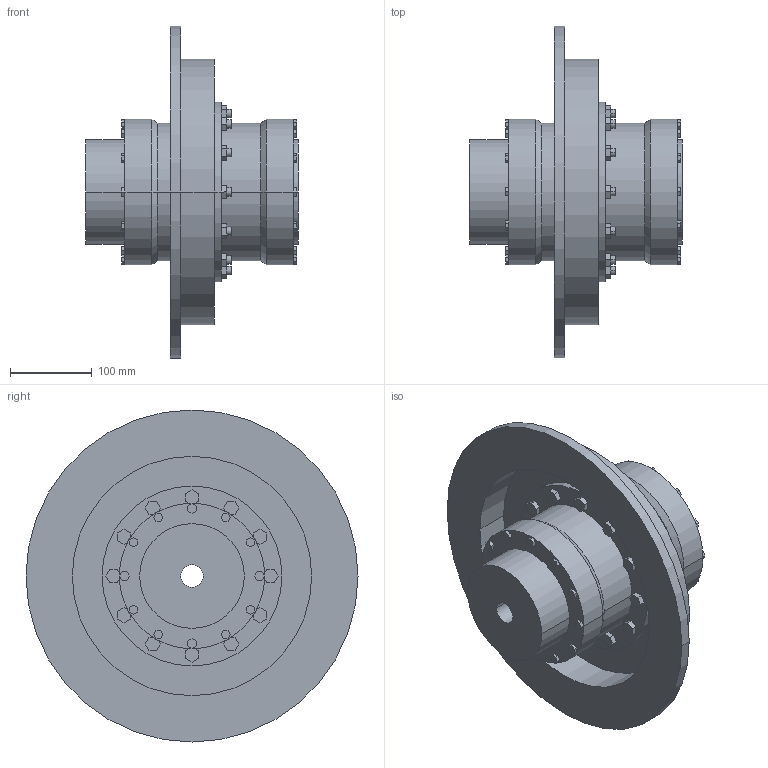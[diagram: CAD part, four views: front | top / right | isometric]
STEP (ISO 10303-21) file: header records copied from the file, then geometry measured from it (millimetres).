
FILE_DESCRIPTION((''),'2;1');
FILE_NAME('A19719800-0_ASM','2019-05-23T',('AB_Roschiwal'),('RENK AG'),'PRO/ENGINEER BY PARAMETRIC TECHNOLOGY CORPORATION, 2015440','PRO/ENGINEER BY PARAMETRIC TECHNOLOGY CORPORATION, 2015440','');
FILE_SCHEMA(('CONFIG_CONTROL_DESIGN'));
Length unit declared in the file: millimetre
Products named in the file (4): SBKT80_GEHAEUSE; SBKT80_NABE; SBKT80_BREMSSCHEIBE; A19719800-0_ASM
Assembly tree (4 placements, depth 2):
  A19719800-0_ASM
    SBKT80_GEHAEUSE
    SBKT80_NABE  x2
    SBKT80_BREMSSCHEIBE
Bounding box: 260 x 406 x 406 mm (x, y, z)
Volume: 6159277.1 mm3; surface area: 815375.2 mm2
Topology: 4 solids, 4 shells, 470 faces, 1156 edges, 768 vertices
Faces by surface type: plane 370, cylinder 96, cone 4
Entity records: 13604 total; most frequent: CARTESIAN_POINT 2350, ORIENTED_EDGE 2264, DIRECTION 2240, EDGE_CURVE 1132, VECTOR 956, LINE 956, VERTEX_POINT 752, AXIS2_PLACEMENT_3D 642
